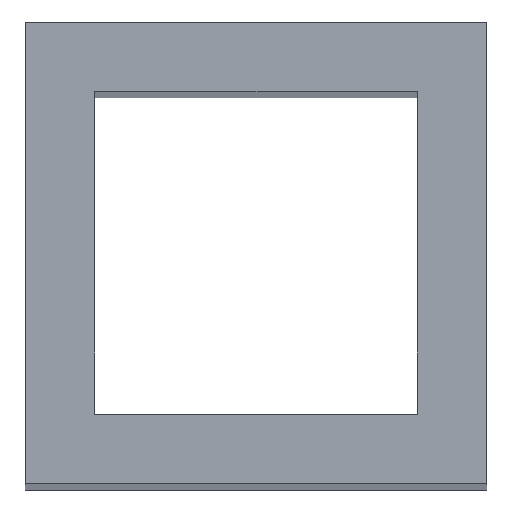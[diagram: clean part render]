
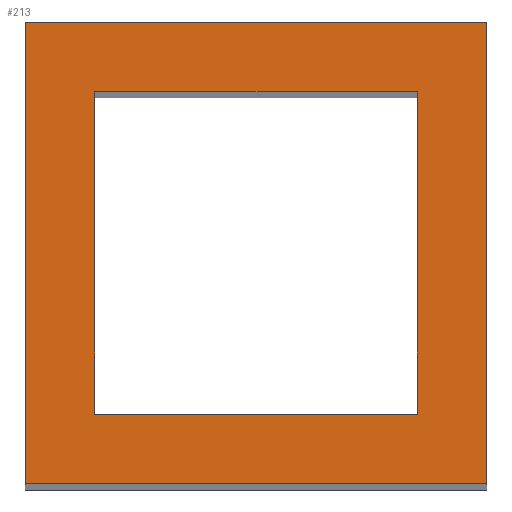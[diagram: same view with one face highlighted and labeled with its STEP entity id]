
A CAD part, top view. The second image highlights one B-rep face of the part: STEP entity #213.
In plain terms, the highlighted planar face has unit normal (0, 0, 1).
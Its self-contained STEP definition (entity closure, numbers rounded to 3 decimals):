
#24 = VERTEX_POINT('',#25);
#25 = CARTESIAN_POINT('',(-77.5,180.,168.));
#32 = PLANE('',#33);
#33 = AXIS2_PLACEMENT_3D('',#34,#35,#36);
#34 = CARTESIAN_POINT('',(-77.5,180.,4.));
#35 = DIRECTION('',(1.,0.,-0.));
#36 = DIRECTION('',(0.,0.,1.));
#44 = PLANE('',#45);
#45 = AXIS2_PLACEMENT_3D('',#46,#47,#48);
#46 = CARTESIAN_POINT('',(-77.5,180.,4.));
#47 = DIRECTION('',(-0.,1.,0.));
#48 = DIRECTION('',(0.,0.,1.));
#85 = VERTEX_POINT('',#86);
#86 = CARTESIAN_POINT('',(-77.5,200.,168.));
#100 = PLANE('',#101);
#101 = AXIS2_PLACEMENT_3D('',#102,#103,#104);
#102 = CARTESIAN_POINT('',(-77.5,200.,4.));
#103 = DIRECTION('',(-0.,1.,0.));
#104 = DIRECTION('',(0.,0.,1.));
#112 = EDGE_CURVE('',#24,#85,#113,.T.);
#113 = SURFACE_CURVE('',#114,(#118,#125),.PCURVE_S1.);
#114 = LINE('',#115,#116);
#115 = CARTESIAN_POINT('',(-77.5,180.,168.));
#116 = VECTOR('',#117,1.);
#117 = DIRECTION('',(-0.,1.,0.));
#118 = PCURVE('',#32,#119);
#119 = DEFINITIONAL_REPRESENTATION('',(#120),#124);
#120 = LINE('',#121,#122);
#121 = CARTESIAN_POINT('',(164.,0.));
#122 = VECTOR('',#123,1.);
#123 = DIRECTION('',(0.,-1.));
#124 = ( GEOMETRIC_REPRESENTATION_CONTEXT(2) 
PARAMETRIC_REPRESENTATION_CONTEXT() REPRESENTATION_CONTEXT('2D SPACE',''
  ) );
#125 = PCURVE('',#126,#131);
#126 = PLANE('',#127);
#127 = AXIS2_PLACEMENT_3D('',#128,#129,#130);
#128 = CARTESIAN_POINT('',(-77.5,180.,168.));
#129 = DIRECTION('',(0.,0.,1.));
#130 = DIRECTION('',(1.,0.,-0.));
#131 = DEFINITIONAL_REPRESENTATION('',(#132),#136);
#132 = LINE('',#133,#134);
#133 = CARTESIAN_POINT('',(0.,0.));
#134 = VECTOR('',#135,1.);
#135 = DIRECTION('',(0.,1.));
#136 = ( GEOMETRIC_REPRESENTATION_CONTEXT(2) 
PARAMETRIC_REPRESENTATION_CONTEXT() REPRESENTATION_CONTEXT('2D SPACE',''
  ) );
#165 = EDGE_CURVE('',#24,#166,#168,.T.);
#166 = VERTEX_POINT('',#167);
#167 = CARTESIAN_POINT('',(-57.5,180.,168.));
#168 = SURFACE_CURVE('',#169,(#173,#180),.PCURVE_S1.);
#169 = LINE('',#170,#171);
#170 = CARTESIAN_POINT('',(-77.5,180.,168.));
#171 = VECTOR('',#172,1.);
#172 = DIRECTION('',(1.,0.,-0.));
#173 = PCURVE('',#44,#174);
#174 = DEFINITIONAL_REPRESENTATION('',(#175),#179);
#175 = LINE('',#176,#177);
#176 = CARTESIAN_POINT('',(164.,0.));
#177 = VECTOR('',#178,1.);
#178 = DIRECTION('',(0.,1.));
#179 = ( GEOMETRIC_REPRESENTATION_CONTEXT(2) 
PARAMETRIC_REPRESENTATION_CONTEXT() REPRESENTATION_CONTEXT('2D SPACE',''
  ) );
#180 = PCURVE('',#126,#181);
#181 = DEFINITIONAL_REPRESENTATION('',(#182),#186);
#182 = LINE('',#183,#184);
#183 = CARTESIAN_POINT('',(0.,0.));
#184 = VECTOR('',#185,1.);
#185 = DIRECTION('',(1.,0.));
#186 = ( GEOMETRIC_REPRESENTATION_CONTEXT(2) 
PARAMETRIC_REPRESENTATION_CONTEXT() REPRESENTATION_CONTEXT('2D SPACE',''
  ) );
#202 = PLANE('',#203);
#203 = AXIS2_PLACEMENT_3D('',#204,#205,#206);
#204 = CARTESIAN_POINT('',(-57.5,180.,4.));
#205 = DIRECTION('',(1.,0.,-0.));
#206 = DIRECTION('',(0.,0.,1.));
#213 = ADVANCED_FACE('',(#214,#262),#126,.T.);
#214 = FACE_BOUND('',#215,.T.);
#215 = EDGE_LOOP('',(#216,#217,#218,#241));
#216 = ORIENTED_EDGE('',*,*,#112,.F.);
#217 = ORIENTED_EDGE('',*,*,#165,.T.);
#218 = ORIENTED_EDGE('',*,*,#219,.T.);
#219 = EDGE_CURVE('',#166,#220,#222,.T.);
#220 = VERTEX_POINT('',#221);
#221 = CARTESIAN_POINT('',(-57.5,200.,168.));
#222 = SURFACE_CURVE('',#223,(#227,#234),.PCURVE_S1.);
#223 = LINE('',#224,#225);
#224 = CARTESIAN_POINT('',(-57.5,180.,168.));
#225 = VECTOR('',#226,1.);
#226 = DIRECTION('',(-0.,1.,0.));
#227 = PCURVE('',#126,#228);
#228 = DEFINITIONAL_REPRESENTATION('',(#229),#233);
#229 = LINE('',#230,#231);
#230 = CARTESIAN_POINT('',(20.,0.));
#231 = VECTOR('',#232,1.);
#232 = DIRECTION('',(0.,1.));
#233 = ( GEOMETRIC_REPRESENTATION_CONTEXT(2) 
PARAMETRIC_REPRESENTATION_CONTEXT() REPRESENTATION_CONTEXT('2D SPACE',''
  ) );
#234 = PCURVE('',#202,#235);
#235 = DEFINITIONAL_REPRESENTATION('',(#236),#240);
#236 = LINE('',#237,#238);
#237 = CARTESIAN_POINT('',(164.,0.));
#238 = VECTOR('',#239,1.);
#239 = DIRECTION('',(0.,-1.));
#240 = ( GEOMETRIC_REPRESENTATION_CONTEXT(2) 
PARAMETRIC_REPRESENTATION_CONTEXT() REPRESENTATION_CONTEXT('2D SPACE',''
  ) );
#241 = ORIENTED_EDGE('',*,*,#242,.F.);
#242 = EDGE_CURVE('',#85,#220,#243,.T.);
#243 = SURFACE_CURVE('',#244,(#248,#255),.PCURVE_S1.);
#244 = LINE('',#245,#246);
#245 = CARTESIAN_POINT('',(-77.5,200.,168.));
#246 = VECTOR('',#247,1.);
#247 = DIRECTION('',(1.,0.,-0.));
#248 = PCURVE('',#126,#249);
#249 = DEFINITIONAL_REPRESENTATION('',(#250),#254);
#250 = LINE('',#251,#252);
#251 = CARTESIAN_POINT('',(0.,20.));
#252 = VECTOR('',#253,1.);
#253 = DIRECTION('',(1.,0.));
#254 = ( GEOMETRIC_REPRESENTATION_CONTEXT(2) 
PARAMETRIC_REPRESENTATION_CONTEXT() REPRESENTATION_CONTEXT('2D SPACE',''
  ) );
#255 = PCURVE('',#100,#256);
#256 = DEFINITIONAL_REPRESENTATION('',(#257),#261);
#257 = LINE('',#258,#259);
#258 = CARTESIAN_POINT('',(164.,0.));
#259 = VECTOR('',#260,1.);
#260 = DIRECTION('',(0.,1.));
#261 = ( GEOMETRIC_REPRESENTATION_CONTEXT(2) 
PARAMETRIC_REPRESENTATION_CONTEXT() REPRESENTATION_CONTEXT('2D SPACE',''
  ) );
#262 = FACE_BOUND('',#263,.T.);
#263 = EDGE_LOOP('',(#264,#292,#318,#344));
#264 = ORIENTED_EDGE('',*,*,#265,.T.);
#265 = EDGE_CURVE('',#266,#268,#270,.T.);
#266 = VERTEX_POINT('',#267);
#267 = CARTESIAN_POINT('',(-60.5,183.,168.));
#268 = VERTEX_POINT('',#269);
#269 = CARTESIAN_POINT('',(-74.5,183.,168.));
#270 = SURFACE_CURVE('',#271,(#275,#281),.PCURVE_S1.);
#271 = LINE('',#272,#273);
#272 = CARTESIAN_POINT('',(-76.,183.,168.));
#273 = VECTOR('',#274,1.);
#274 = DIRECTION('',(-1.,-0.,0.));
#275 = PCURVE('',#126,#276);
#276 = DEFINITIONAL_REPRESENTATION('',(#277),#280);
#277 = B_SPLINE_CURVE_WITH_KNOTS('',1,(#278,#279),.UNSPECIFIED.,.F.,.F.,
  (2,2),(-15.5,-1.5),.PIECEWISE_BEZIER_KNOTS.);
#278 = CARTESIAN_POINT('',(17.,3.));
#279 = CARTESIAN_POINT('',(3.,3.));
#280 = ( GEOMETRIC_REPRESENTATION_CONTEXT(2) 
PARAMETRIC_REPRESENTATION_CONTEXT() REPRESENTATION_CONTEXT('2D SPACE',''
  ) );
#281 = PCURVE('',#282,#287);
#282 = PLANE('',#283);
#283 = AXIS2_PLACEMENT_3D('',#284,#285,#286);
#284 = CARTESIAN_POINT('',(-74.5,183.,3.));
#285 = DIRECTION('',(-0.,1.,0.));
#286 = DIRECTION('',(0.,0.,1.));
#287 = DEFINITIONAL_REPRESENTATION('',(#288),#291);
#288 = B_SPLINE_CURVE_WITH_KNOTS('',1,(#289,#290),.UNSPECIFIED.,.F.,.F.,
  (2,2),(-15.5,-1.5),.PIECEWISE_BEZIER_KNOTS.);
#289 = CARTESIAN_POINT('',(165.,14.));
#290 = CARTESIAN_POINT('',(165.,0.));
#291 = ( GEOMETRIC_REPRESENTATION_CONTEXT(2) 
PARAMETRIC_REPRESENTATION_CONTEXT() REPRESENTATION_CONTEXT('2D SPACE',''
  ) );
#292 = ORIENTED_EDGE('',*,*,#293,.T.);
#293 = EDGE_CURVE('',#268,#294,#296,.T.);
#294 = VERTEX_POINT('',#295);
#295 = CARTESIAN_POINT('',(-74.5,197.,168.));
#296 = SURFACE_CURVE('',#297,(#301,#307),.PCURVE_S1.);
#297 = LINE('',#298,#299);
#298 = CARTESIAN_POINT('',(-74.5,181.5,168.));
#299 = VECTOR('',#300,1.);
#300 = DIRECTION('',(-0.,1.,0.));
#301 = PCURVE('',#126,#302);
#302 = DEFINITIONAL_REPRESENTATION('',(#303),#306);
#303 = B_SPLINE_CURVE_WITH_KNOTS('',1,(#304,#305),.UNSPECIFIED.,.F.,.F.,
  (2,2),(1.5,15.5),.PIECEWISE_BEZIER_KNOTS.);
#304 = CARTESIAN_POINT('',(3.,3.));
#305 = CARTESIAN_POINT('',(3.,17.));
#306 = ( GEOMETRIC_REPRESENTATION_CONTEXT(2) 
PARAMETRIC_REPRESENTATION_CONTEXT() REPRESENTATION_CONTEXT('2D SPACE',''
  ) );
#307 = PCURVE('',#308,#313);
#308 = PLANE('',#309);
#309 = AXIS2_PLACEMENT_3D('',#310,#311,#312);
#310 = CARTESIAN_POINT('',(-74.5,183.,3.));
#311 = DIRECTION('',(1.,0.,-0.));
#312 = DIRECTION('',(0.,0.,1.));
#313 = DEFINITIONAL_REPRESENTATION('',(#314),#317);
#314 = B_SPLINE_CURVE_WITH_KNOTS('',1,(#315,#316),.UNSPECIFIED.,.F.,.F.,
  (2,2),(1.5,15.5),.PIECEWISE_BEZIER_KNOTS.);
#315 = CARTESIAN_POINT('',(165.,0.));
#316 = CARTESIAN_POINT('',(165.,-14.));
#317 = ( GEOMETRIC_REPRESENTATION_CONTEXT(2) 
PARAMETRIC_REPRESENTATION_CONTEXT() REPRESENTATION_CONTEXT('2D SPACE',''
  ) );
#318 = ORIENTED_EDGE('',*,*,#319,.F.);
#319 = EDGE_CURVE('',#320,#294,#322,.T.);
#320 = VERTEX_POINT('',#321);
#321 = CARTESIAN_POINT('',(-60.5,197.,168.));
#322 = SURFACE_CURVE('',#323,(#327,#333),.PCURVE_S1.);
#323 = LINE('',#324,#325);
#324 = CARTESIAN_POINT('',(-76.,197.,168.));
#325 = VECTOR('',#326,1.);
#326 = DIRECTION('',(-1.,-0.,0.));
#327 = PCURVE('',#126,#328);
#328 = DEFINITIONAL_REPRESENTATION('',(#329),#332);
#329 = B_SPLINE_CURVE_WITH_KNOTS('',1,(#330,#331),.UNSPECIFIED.,.F.,.F.,
  (2,2),(-15.5,-1.5),.PIECEWISE_BEZIER_KNOTS.);
#330 = CARTESIAN_POINT('',(17.,17.));
#331 = CARTESIAN_POINT('',(3.,17.));
#332 = ( GEOMETRIC_REPRESENTATION_CONTEXT(2) 
PARAMETRIC_REPRESENTATION_CONTEXT() REPRESENTATION_CONTEXT('2D SPACE',''
  ) );
#333 = PCURVE('',#334,#339);
#334 = PLANE('',#335);
#335 = AXIS2_PLACEMENT_3D('',#336,#337,#338);
#336 = CARTESIAN_POINT('',(-74.5,197.,3.));
#337 = DIRECTION('',(-0.,1.,0.));
#338 = DIRECTION('',(0.,0.,1.));
#339 = DEFINITIONAL_REPRESENTATION('',(#340),#343);
#340 = B_SPLINE_CURVE_WITH_KNOTS('',1,(#341,#342),.UNSPECIFIED.,.F.,.F.,
  (2,2),(-15.5,-1.5),.PIECEWISE_BEZIER_KNOTS.);
#341 = CARTESIAN_POINT('',(165.,14.));
#342 = CARTESIAN_POINT('',(165.,0.));
#343 = ( GEOMETRIC_REPRESENTATION_CONTEXT(2) 
PARAMETRIC_REPRESENTATION_CONTEXT() REPRESENTATION_CONTEXT('2D SPACE',''
  ) );
#344 = ORIENTED_EDGE('',*,*,#345,.F.);
#345 = EDGE_CURVE('',#266,#320,#346,.T.);
#346 = SURFACE_CURVE('',#347,(#351,#357),.PCURVE_S1.);
#347 = LINE('',#348,#349);
#348 = CARTESIAN_POINT('',(-60.5,181.5,168.));
#349 = VECTOR('',#350,1.);
#350 = DIRECTION('',(-0.,1.,0.));
#351 = PCURVE('',#126,#352);
#352 = DEFINITIONAL_REPRESENTATION('',(#353),#356);
#353 = B_SPLINE_CURVE_WITH_KNOTS('',1,(#354,#355),.UNSPECIFIED.,.F.,.F.,
  (2,2),(1.5,15.5),.PIECEWISE_BEZIER_KNOTS.);
#354 = CARTESIAN_POINT('',(17.,3.));
#355 = CARTESIAN_POINT('',(17.,17.));
#356 = ( GEOMETRIC_REPRESENTATION_CONTEXT(2) 
PARAMETRIC_REPRESENTATION_CONTEXT() REPRESENTATION_CONTEXT('2D SPACE',''
  ) );
#357 = PCURVE('',#358,#363);
#358 = PLANE('',#359);
#359 = AXIS2_PLACEMENT_3D('',#360,#361,#362);
#360 = CARTESIAN_POINT('',(-60.5,183.,3.));
#361 = DIRECTION('',(1.,0.,-0.));
#362 = DIRECTION('',(0.,0.,1.));
#363 = DEFINITIONAL_REPRESENTATION('',(#364),#367);
#364 = B_SPLINE_CURVE_WITH_KNOTS('',1,(#365,#366),.UNSPECIFIED.,.F.,.F.,
  (2,2),(1.5,15.5),.PIECEWISE_BEZIER_KNOTS.);
#365 = CARTESIAN_POINT('',(165.,0.));
#366 = CARTESIAN_POINT('',(165.,-14.));
#367 = ( GEOMETRIC_REPRESENTATION_CONTEXT(2) 
PARAMETRIC_REPRESENTATION_CONTEXT() REPRESENTATION_CONTEXT('2D SPACE',''
  ) );
